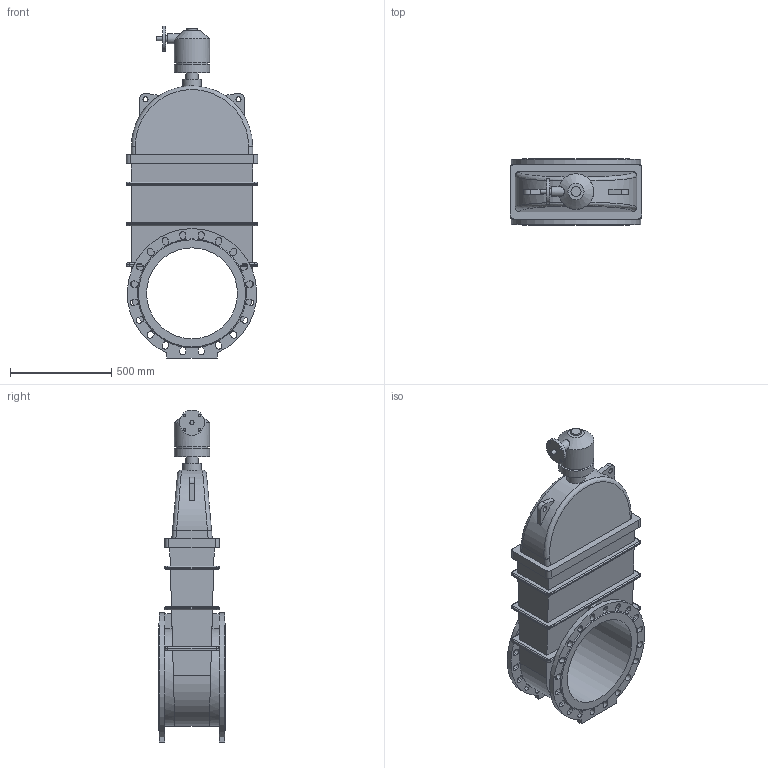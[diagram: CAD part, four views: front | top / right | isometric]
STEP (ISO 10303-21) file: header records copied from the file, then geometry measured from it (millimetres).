
FILE_DESCRIPTION(('STEP AP203'), '1');
FILE_NAME('Çàäâèæêà 47GV.Z DN450 PN10_PN16 + ðåäóêòîð ñ âõîäíûì ôëàíöåì', '', ('UNSPECIFIED'), ('UNSPECIFIED'), 'ASCON STEP Converter 1.6', 'ASCON Math Kernel', '');
FILE_SCHEMA(('CONFIG_CONTROL_DESIGN'));
Length unit declared in the file: millimetre
Bounding box: 650 x 330 x 1642.5 mm (x, y, z)
Volume: 123576278.3 mm3; surface area: 3561937.9 mm2
Topology: 1 solids, 1 shells, 364 faces, 1068 edges, 695 vertices
Faces by surface type: plane 178, cylinder 159, bspline 24, cone 3
Full cylindrical faces by diameter (mm): 12 x4, 14 x4, 18 x4, 25 x2, 30 x1, 50 x2, 60 x1, 90 x1, 125 x1, 155 x1, 175 x2, 450 x1
Entity records: 19387 total; most frequent: CARTESIAN_POINT 6742, ORIENTED_EDGE 2082, DIRECTION 1967, EDGE_CURVE 1041, AXIS2_PLACEMENT_3D 705, VERTEX_POINT 695, LINE 557, VECTOR 557
